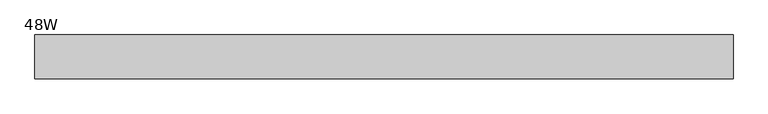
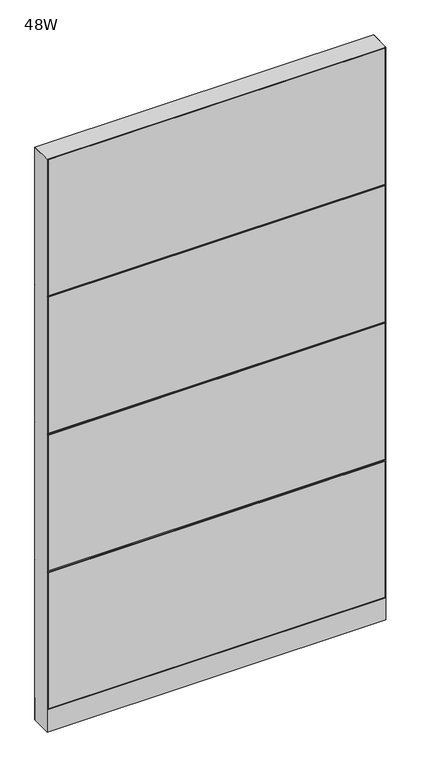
"""IFC4 building model written with IfcOpenShell, lengths in millimetres: furniture geometry, Steelcase - Montage - Frame - 86H - Enhanced Standard - Base Cavity : 48W."""

from ifc_helpers import new_model, si_unit, point, frame, frame_2d, origin, origin_with_axes, place, context, project, spatial, polyline, circle_curve, trimmed, segment, composite_curve, outline, extrude, faceted_brep, source, transform, mapped, element, save


def furniture_48w_f1cb6a6a(model_context):
    return source(origin(), model_context, "Body", "SolidModel", [
        faceted_brep([(-5.4e-06, 38.102627, 1136.6500027), (6.3499917, 31.7526299, 1142.9999997), (1212.8500047, 31.7526299, 1142.9999997), (1219.2, 38.1026253, 1136.6500044), (1212.8500047, 31.7526299, 1130.3000003), (6.3499917, 31.7526299, 1130.3000003)], [[[0, 1, 2, 3]], [[3, 4, 5, 0]], [[1, 5, 4, 2]], [[0, 5, 1]], [[2, 4, 3]]]),
        faceted_brep([(-5.4e-06, 38.102627, 612.7750027), (6.3499917, 31.7526299, 619.1249997), (1212.8500047, 31.7526299, 619.1249997), (1219.2, 38.1026253, 612.7750044), (1212.8500047, 31.7526299, 606.4250003), (6.3499917, 31.7526299, 606.4250003)], [[[0, 1, 2, 3]], [[3, 4, 5, 0]], [[1, 5, 4, 2]], [[0, 5, 1]], [[2, 4, 3]]]),
        faceted_brep([(-5.4e-06, 38.102627, 1660.5250027), (6.3499917, 31.7526299, 1666.8749997), (1212.8500047, 31.7526299, 1666.8749997), (1219.2, 38.1026253, 1660.5250044), (1212.8500047, 31.7526299, 1654.1750003), (6.3499917, 31.7526299, 1654.1750003)], [[[0, 1, 2, 3]], [[3, 4, 5, 0]], [[1, 5, 4, 2]], [[0, 5, 1]], [[2, 4, 3]]]),
        extrude(outline(polyline([(3.175, 31.7500194), (3.175, 38.1000194), (1216.025, 38.1000194), (1216.025, 31.7500194), (3.175, 31.7500194)])), frame((0.0, 0.0, 1663.7), z_axis=(0.0, 0.0, 1.0), x_axis=(1.0, 0.0, 0.0)), (0.0, 0.0, 1.0), 517.525),
        extrude(outline(polyline([(3.175, 31.7500194), (3.175, 38.1000194), (1216.025, 38.1000194), (1216.025, 31.7500194), (3.175, 31.7500194)])), frame((0.0, 0.0, 92.075), z_axis=(0.0, 0.0, 1.0), x_axis=(1.0, 0.0, 0.0)), (0.0, 0.0, 1.0), 517.525),
        extrude(outline(polyline([(3.175, 31.7500194), (3.175, 38.1000194), (1216.025, 38.1000194), (1216.025, 31.7500194), (3.175, 31.7500194)])), frame((0.0, 0.0, 615.95), z_axis=(0.0, 0.0, 1.0), x_axis=(1.0, 0.0, 0.0)), (0.0, 0.0, 1.0), 517.525),
        extrude(outline(polyline([(3.175, 31.7500194), (3.175, 38.1000194), (1216.025, 38.1000194), (1216.025, 31.7500194), (3.175, 31.7500194)])), frame((0.0, 0.0, 1139.825), z_axis=(0.0, 0.0, 1.0), x_axis=(1.0, 0.0, 0.0)), (0.0, 0.0, 1.0), 517.525),
        faceted_brep([(0.0, -38.1026297, 1136.65), (1219.2, -38.1026297, 1136.65), (1212.8500047, -31.7526299, 1142.9999997), (6.3499917, -31.7526299, 1142.9999997), (6.3499917, -31.7526299, 1130.3000003), (1212.8500047, -31.7526299, 1130.3000003)], [[[0, 1, 2, 3]], [[1, 0, 4, 5]], [[3, 2, 5, 4]], [[0, 3, 4]], [[2, 1, 5]]]),
        faceted_brep([(0.0, -38.1026297, 612.775), (1219.2, -38.1026297, 612.775), (1212.8500047, -31.7526299, 619.1249997), (6.3499917, -31.7526299, 619.1249997), (6.3499917, -31.7526299, 606.4250003), (1212.8500047, -31.7526299, 606.4250003)], [[[0, 1, 2, 3]], [[1, 0, 4, 5]], [[3, 2, 5, 4]], [[0, 3, 4]], [[2, 1, 5]]]),
        faceted_brep([(0.0, -38.1026297, 1660.525), (1219.2, -38.1026297, 1660.525), (1212.8500047, -31.7526299, 1666.8749997), (6.3499917, -31.7526299, 1666.8749997), (6.3499917, -31.7526299, 1654.1750003), (1212.8500047, -31.7526299, 1654.1750003)], [[[0, 1, 2, 3]], [[1, 0, 4, 5]], [[3, 2, 5, 4]], [[0, 3, 4]], [[2, 1, 5]]]),
        extrude(outline(polyline([(3.175, -31.7500194), (1216.025, -31.7500194), (1216.025, -38.1000194), (3.175, -38.1000194), (3.175, -31.7500194)])), frame((0.0, 0.0, 1663.7), z_axis=(0.0, 0.0, 1.0), x_axis=(1.0, 0.0, 0.0)), (0.0, 0.0, 1.0), 517.525),
        extrude(outline(polyline([(3.175, -31.7500194), (1216.025, -31.7500194), (1216.025, -38.1000194), (3.175, -38.1000194), (3.175, -31.7500194)])), frame((0.0, 0.0, 92.075), z_axis=(0.0, 0.0, 1.0), x_axis=(1.0, 0.0, 0.0)), (0.0, 0.0, 1.0), 517.525),
        extrude(outline(polyline([(3.175, -31.7500194), (1216.025, -31.7500194), (1216.025, -38.1000194), (3.175, -38.1000194), (3.175, -31.7500194)])), frame((0.0, 0.0, 615.95), z_axis=(0.0, 0.0, 1.0), x_axis=(1.0, 0.0, 0.0)), (0.0, 0.0, 1.0), 517.525),
        extrude(outline(polyline([(3.175, -31.7500194), (1216.025, -31.7500194), (1216.025, -38.1000194), (3.175, -38.1000194), (3.175, -31.7500194)])), frame((0.0, 0.0, 1139.825), z_axis=(0.0, 0.0, 1.0), x_axis=(1.0, 0.0, 0.0)), (0.0, 0.0, 1.0), 517.525),
        extrude(outline(polyline([(6.350003, -31.7499985), (1212.849997, -31.7499985), (1219.2, -38.1000015), (0.0, -38.1000015), (6.350003, -31.7499985)])), frame((0.0, 0.0, 4.064), z_axis=(0.0, 0.0, 1.0), x_axis=(1.0, 0.0, 0.0)), (0.0, 0.0, 1.0), 84.835997),
        extrude(outline(polyline([(6.3500002, 31.7500017), (0.0, 38.1000015), (1219.2, 38.1000015), (1212.8500002, 31.7500017), (6.3500002, 31.7500017)])), frame((0.0, 0.0, 4.064), z_axis=(0.0, 0.0, 1.0), x_axis=(1.0, 0.0, 0.0)), (0.0, 0.0, 1.0), 84.835997),
        faceted_brep([(1219.2, -38.1000015, 2184.4), (0.0, -38.1000015, 2184.4), (6.3500484, -31.749953, 2178.0499516), (1212.8499516, -31.749953, 2178.0499516), (6.3500484, 31.749953, 2178.0499516), (1212.8499516, 31.749953, 2178.0499516), (0.0, 38.1000015, 2184.4), (1219.2, 38.1000015, 2184.4)], [[[0, 1, 2, 3]], [[3, 2, 4, 5]], [[6, 7, 5, 4]], [[1, 0, 7, 6]], [[2, 1, 6, 4]], [[0, 3, 5, 7]]]),
        extrude(outline(composite_curve([segment(trimmed(circle_curve(frame_2d((44.45, 0.0)), 15.24), [point((29.21, 0.0))], [point((59.69, 0.0))], False, "CARTESIAN"), True, "CONTINUOUS"), segment(trimmed(circle_curve(frame_2d((44.45, 0.0)), 15.24), [point((59.69, 0.0))], [point((29.21, 0.0))], False, "CARTESIAN"), True, "CONTINUOUS")], self_intersect=False)), origin_with_axes(), (0.0, 0.0, 1.0), 4.064),
        extrude(outline(composite_curve([segment(trimmed(circle_curve(frame_2d((1174.75, 0.0)), 15.24), [point((1159.51, 0.0))], [point((1189.99, 0.0))], False, "CARTESIAN"), True, "CONTINUOUS"), segment(trimmed(circle_curve(frame_2d((1174.75, 0.0)), 15.24), [point((1189.99, 0.0))], [point((1159.51, 0.0))], False, "CARTESIAN"), True, "CONTINUOUS")], self_intersect=False)), origin_with_axes(), (0.0, 0.0, 1.0), 4.064),
        faceted_brep([(1219.2, -38.1000106, 4.064), (1219.2, 38.1000015, 4.064), (1219.2, 38.1000015, 2184.4), (1219.2, -38.1000106, 2184.3999637), (0.0, 38.1000015, 4.064), (0.0, -38.1000015, 4.064), (0.0, -38.1000015, 2184.4), (0.0, 38.1000015, 2184.4), (1212.8499879, 31.7500017, 606.425), (6.35, 31.7500017, 606.425), (6.3499998, 31.7500017, 619.125), (1212.8499879, 31.7500017, 619.125), (6.35, -31.7499985, 619.125), (1212.8499879, -31.7499985, 619.125), (6.350003, -31.7499985, 606.425), (1212.8499879, -31.7499985, 606.425), (1212.8499879, 31.7500017, 1130.3), (6.35, 31.7500017, 1130.3), (6.3499998, 31.7500017, 1143.0), (1212.8499879, 31.7500017, 1143.0), (6.35, -31.7499985, 1143.0), (1212.8499879, -31.7499985, 1143.0), (6.350003, -31.7499985, 1130.3), (1212.8499879, -31.7499985, 1130.3), (1212.8499879, 31.7500017, 1654.175), (6.35, 31.7500017, 1654.175), (6.3499998, 31.7500017, 1666.875), (1212.8499879, 31.7500017, 1666.875), (6.35, -31.7499985, 1666.875), (1212.8499879, -31.7499985, 1666.875), (6.350003, -31.7499985, 1654.175), (1212.8499879, -31.7499985, 1654.175), (6.35, 31.7500015, 4.064), (6.35, -31.7500015, 4.064), (1212.8499879, 31.7499894, 4.064), (1212.8499879, -31.7499985, 4.064), (6.35, 31.7500015, 2178.05), (6.35, -31.7500015, 2178.05), (1212.8499879, -31.7499985, 2178.0499516), (1212.8499879, 31.7499895, 2178.0499516)], [[[0, 1, 2, 3]], [[4, 5, 6, 7]], [[8, 9, 10, 11]], [[11, 10, 12, 13]], [[13, 12, 14, 15]], [[9, 8, 15, 14]], [[16, 17, 18, 19]], [[19, 18, 20, 21]], [[21, 20, 22, 23]], [[17, 16, 23, 22]], [[24, 25, 26, 27]], [[27, 26, 28, 29]], [[29, 28, 30, 31]], [[25, 24, 31, 30]], [[32, 33, 5, 4]], [[34, 1, 0, 35]], [[32, 4, 7, 36, 26, 25, 18, 17, 10, 9]], [[5, 33, 14, 12, 22, 20, 30, 28, 37, 6]], [[28, 26, 36, 37]], [[33, 32, 9, 14]], [[18, 25, 30, 20]], [[10, 17, 22, 12]], [[27, 29, 38, 39]], [[34, 35, 15, 8]], [[16, 11, 13, 23]], [[24, 19, 21, 31]], [[35, 0, 3, 38, 29, 31, 21, 23, 13, 15]], [[1, 34, 8, 11, 16, 19, 24, 27, 39, 2]], [[7, 6, 37, 36]], [[3, 2, 39, 38]]]),
    ])


if __name__ == "__main__":
    model = new_model("IFC4")
    model_context = context("Model", 3, world=origin())
    ifc_project = project(units=[si_unit("LENGTHUNIT", "METRE", prefix="MILLI")], contexts=[model_context])
    site = spatial("IfcSite", under=ifc_project)
    building = spatial("IfcBuilding", under=site)
    placement = place(None, origin())
    furniture_48w_shape = furniture_48w_f1cb6a6a(model_context)
    element("IfcFurniture", 1, ObjectType="Steelcase - Montage - Frame - 86H - Enhanced Standard - Base Cavity : 48W", at=placement, inside=building, context=model_context, shape_type="MappedRepresentation", body=[
        mapped(furniture_48w_shape, transform((0.0, 0.0, 0.0), x_axis=(1.0, 0.0, 0.0), y_axis=(0.0, 1.0, 0.0), z_axis=(0.0, 0.0, 1.0))),
    ])
    save(model, "model.ifc")
